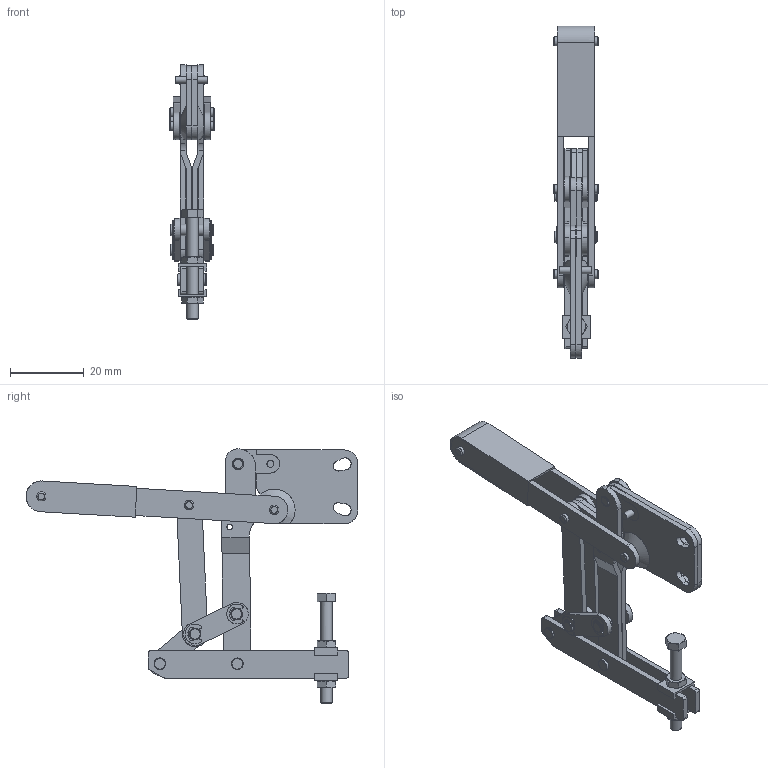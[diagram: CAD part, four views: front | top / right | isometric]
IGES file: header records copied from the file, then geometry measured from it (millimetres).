
Start section:  Autodesk DirectConnect version 7.0.27.0 ---- IGES version 5.3
Global section: file name: C:\Users\Nick\Desktop\DTS-400\3D\DTS-400.igs; native system: Autodesk DirectConnect 7.0.27.0; preprocessor: 7.0.27.0; author: Nick; organization: Unknown; date: 20150715.164534; units: centimetre
Bounding box: 12.18 x 89.98 x 68.94 mm (x, y, z)
Surface area: 16608.3 mm2 (no closed solid volume)
Topology: 0 solids, 0 shells, 526 faces, 3525 edges, 3495 vertices
Faces by surface type: bspline 526
